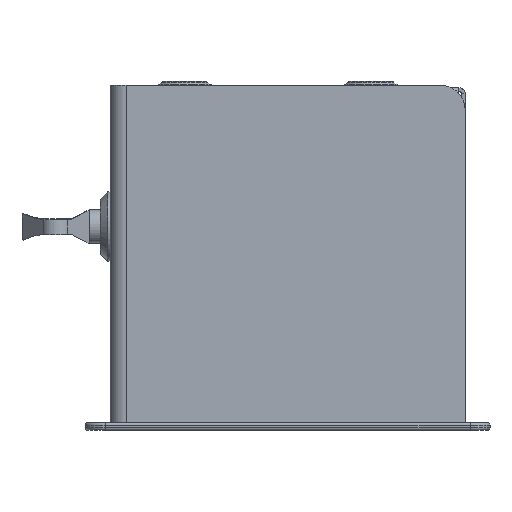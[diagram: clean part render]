
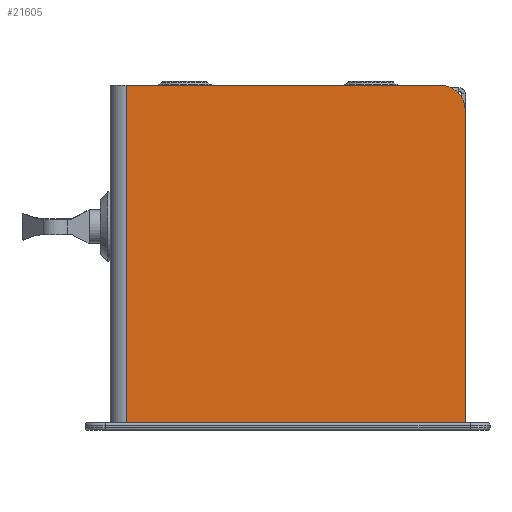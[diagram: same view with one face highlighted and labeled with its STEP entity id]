
A CAD part, left-side view. The second image highlights one B-rep face of the part: STEP entity #21605.
In plain terms, the highlighted planar face has unit normal (-1, 0, 0).
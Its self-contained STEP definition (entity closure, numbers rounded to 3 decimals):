
#728=PLANE('',#22956);
#1738=FACE_OUTER_BOUND('',#2968,.T.);
#2968=EDGE_LOOP('',(#15629,#15630,#15631,#15632,#15633));
#4249=LINE('',#30916,#6883);
#4269=LINE('',#30973,#6903);
#4273=LINE('',#30983,#6907);
#4276=LINE('',#30993,#6910);
#6883=VECTOR('',#25002,126.5);
#6903=VECTOR('',#25058,136.);
#6907=VECTOR('',#25068,136.5);
#6910=VECTOR('',#25081,126.);
#9488=CIRCLE('',#22927,10.);
#9959=VERTEX_POINT('',#30903);
#9960=VERTEX_POINT('',#30904);
#9964=VERTEX_POINT('',#30914);
#9983=VERTEX_POINT('',#30972);
#9986=VERTEX_POINT('',#30981);
#12132=EDGE_CURVE('',#9959,#9960,#9488,.T.);
#12138=EDGE_CURVE('',#9964,#9959,#4249,.T.);
#12166=EDGE_CURVE('',#9964,#9983,#4269,.T.);
#12172=EDGE_CURVE('',#9986,#9983,#4273,.T.);
#12177=EDGE_CURVE('',#9960,#9986,#4276,.T.);
#15629=ORIENTED_EDGE('',*,*,#12132,.F.);
#15630=ORIENTED_EDGE('',*,*,#12138,.F.);
#15631=ORIENTED_EDGE('',*,*,#12166,.T.);
#15632=ORIENTED_EDGE('',*,*,#12172,.F.);
#15633=ORIENTED_EDGE('',*,*,#12177,.F.);
#21605=ADVANCED_FACE('',(#1738),#728,.T.);
#22927=AXIS2_PLACEMENT_3D('',#30905,#24992,#24993);
#22956=AXIS2_PLACEMENT_3D('',#30994,#25082,#25083);
#24992=DIRECTION('center_axis',(1.,0.,0.));
#24993=DIRECTION('ref_axis',(0.,-0.707,-0.707));
#25002=DIRECTION('',(0.,0.,-1.));
#25058=DIRECTION('',(0.,1.,0.));
#25068=DIRECTION('',(0.,0.,1.));
#25081=DIRECTION('',(0.,1.,0.));
#25082=DIRECTION('center_axis',(-1.,0.,0.));
#25083=DIRECTION('ref_axis',(0.,0.,
1.));
#30903=CARTESIAN_POINT('',(-140.,-68.,-131.5));
#30904=CARTESIAN_POINT('',(-140.,-58.,-141.5));
#30905=CARTESIAN_POINT('Origin',(-140.,-58.,-131.5));
#30914=CARTESIAN_POINT('',(-140.,-68.,-5.));
#30916=CARTESIAN_POINT('',(-140.,-68.,-5.));
#30972=CARTESIAN_POINT('',(-140.,68.,-5.));
#30973=CARTESIAN_POINT('',(-140.,0.,-5.));
#30981=CARTESIAN_POINT('',(-140.,68.,-141.5));
#30983=CARTESIAN_POINT('',(-140.,68.,12.037));
#30993=CARTESIAN_POINT('',(-140.,-68.,-141.5));
#30994=CARTESIAN_POINT('Origin',(-140.,0.,-68.991));
